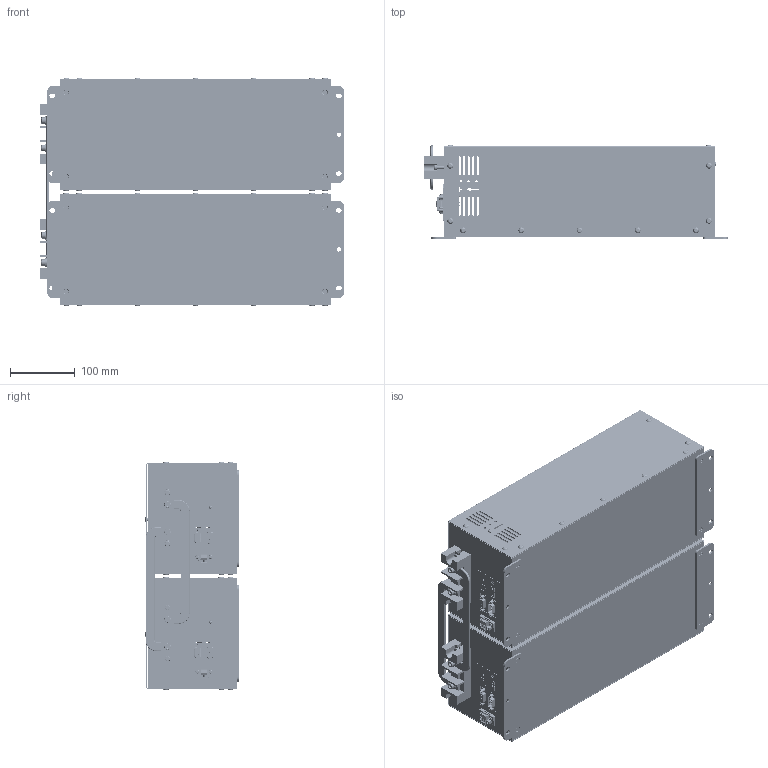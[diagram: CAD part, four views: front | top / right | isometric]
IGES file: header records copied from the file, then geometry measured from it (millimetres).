
Global section: file name: VX2,VX2COM BUSBAR; native system: Autodesk Inventor 2021; preprocessor: unknown; author: eunsol jang; date: 20230824.153425; units: inch
Bounding box: 468 x 144.85 x 352.4 mm (x, y, z)
Volume: 1146344.8 mm3; surface area: 1439086.7 mm2
Topology: 22 solids, 22 shells, 5662 faces, 17530 edges, 12632 vertices
Faces by surface type: bspline 5662
